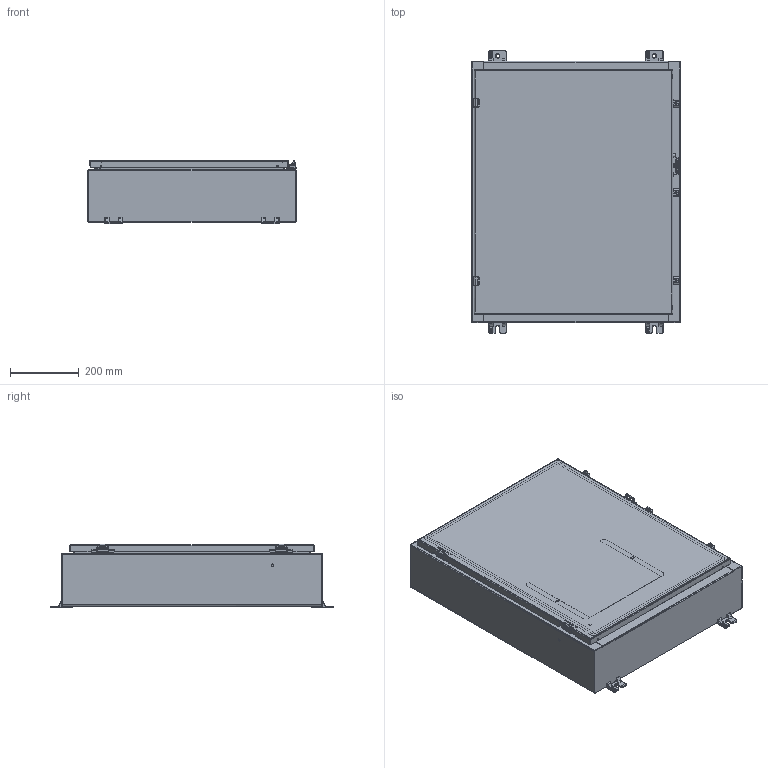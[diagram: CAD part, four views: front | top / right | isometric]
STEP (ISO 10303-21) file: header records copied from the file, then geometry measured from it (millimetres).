
FILE_DESCRIPTION((''),'2;1');
FILE_NAME('MODEL-309_ASM','2024-09-27T11:01:41',('richards'),('SAGINAW CONTROL & ENGINEERING'),'CREO PARAMETRIC BY PTC INC, 2021284','CREO PARAMETRIC BY PTC INC, 2021284','');
FILE_SCHEMA(('AUTOMOTIVE_DESIGN { 1 0 10303 214 1 1 1 1 }'));
Length unit declared in the file: inch
Products named in the file (35): MODEL-309-BDY; MODEL-309-TP; MODEL-309-BTM; MODEL-309-DR; 100837; 100882; 111267; MODEL-309-DOOR-GASKET; 126391; 126391_ASM; 126393; 102483; 101226; 101376; 102140; 115117; MODEL-309-DOOR-ASSY_ASM; 128630; 100059; 128630_ASM; 100921; 128631; 128631_ASM; 101653; 121452; 120132_BASE; 120132_CLAMP; 120132_SCREW; 120132_SPRING; 120132_ASM; 120133; SUBPANEL; 100904; SUBPANEL-SUBASSEMBLY_ASM; MODEL-309_ASM
Assembly tree (67 placements, depth 4):
  MODEL-309_ASM
    MODEL-309-BDY
    MODEL-309-TP
    MODEL-309-BTM
    MODEL-309-DOOR-ASSY_ASM
      MODEL-309-DR
      100837  x3
      100882  x2
      111267
      MODEL-309-DOOR-GASKET
      126391_ASM  x2
        126391
      126393  x2
      102483  x7
      101226  x2
      101376  x2
      102140  x2
      115117
    128630_ASM  x2
      128630
      100059
    100921  x4
    128631_ASM  x2
      128631
      100059
    100837
    101653  x4
    121452
    120132_ASM  x3
      120132_BASE
      120132_CLAMP
      120132_SCREW
      120132_SPRING
    100882  x4
    120133
    SUBPANEL-SUBASSEMBLY_ASM
      SUBPANEL
      100904  x4
Bounding box: 609.6 x 825.5 x 186.51 mm (x, y, z)
Volume: 4644550.5 mm3; surface area: 4158455.5 mm2
Topology: 70 solids, 70 shells, 5296 faces, 13661 edges, 8601 vertices
Faces by surface type: plane 1962, cylinder 1406, bspline 1125, torus 542, cone 150, sphere 111
Entity records: 116203 total; most frequent: CARTESIAN_POINT 36399, ORIENTED_EDGE 11836, DIRECTION 11418, PRESENTATION_STYLE_ASSIGNMENT 6051, STYLED_ITEM 6051, CURVE_STYLE 5918, EDGE_CURVE 5918, AXIS2_PLACEMENT_3D 4237
